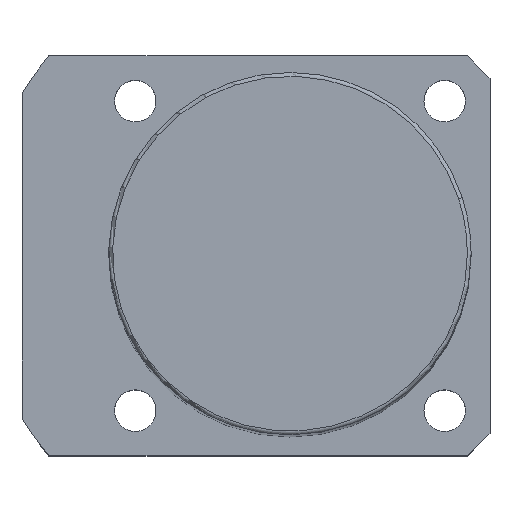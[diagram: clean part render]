
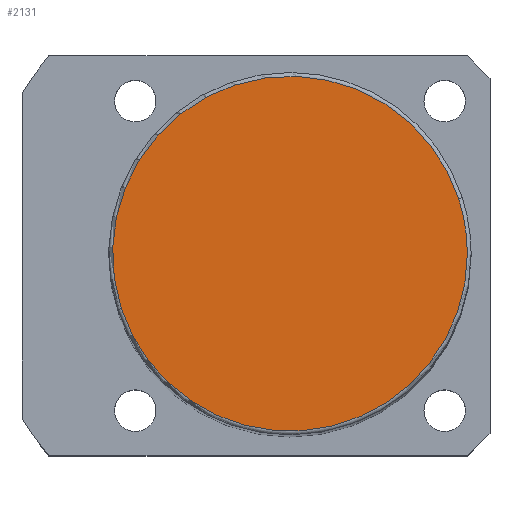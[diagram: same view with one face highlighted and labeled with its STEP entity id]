
A CAD part, top view. The second image highlights one B-rep face of the part: STEP entity #2131.
In plain terms, the highlighted planar face has unit normal (0, 0, 1).
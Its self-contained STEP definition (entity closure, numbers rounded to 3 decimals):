
#2064=CARTESIAN_POINT('',(22.35,7.262,179.0));
#2065=VERTEX_POINT('',#2064);
#2083=CARTESIAN_POINT('',(-22.35,-7.262,179.0));
#2084=VERTEX_POINT('',#2083);
#2092=CARTESIAN_POINT('',(0.0,0.0,179.0));
#2093=DIRECTION('',(0.0,0.0,1.0));
#2094=DIRECTION('',(1.0,0.0,0.0));
#2095=AXIS2_PLACEMENT_3D('',#2092,#2093,#2094);
#2096=CIRCLE('',#2095,23.5);
#2097=EDGE_CURVE('no 2123',#2065,#2084,#2096,.T.);
#2107=CARTESIAN_POINT('',(23.5,0.0,179.0));
#2108=VERTEX_POINT('',#2107);
#2109=CARTESIAN_POINT('',(0.0,0.0,179.0));
#2110=DIRECTION('',(0.0,0.0,1.0));
#2111=DIRECTION('',(1.0,0.0,0.0));
#2112=AXIS2_PLACEMENT_3D('',#2109,#2110,#2111);
#2113=CIRCLE('',#2112,23.5);
#2114=EDGE_CURVE('no 2132',#2108,#2065,#2113,.T.);
#2115=ORIENTED_EDGE('',*,*,#2114,.T.);
#2116=ORIENTED_EDGE('',*,*,#2097,.T.);
#2117=CARTESIAN_POINT('',(0.0,0.0,179.0));
#2118=DIRECTION('',(0.0,0.0,1.0));
#2119=DIRECTION('',(1.0,0.0,0.0));
#2120=AXIS2_PLACEMENT_3D('',#2117,#2118,#2119);
#2121=CIRCLE('',#2120,23.5);
#2122=EDGE_CURVE('no 2138',#2084,#2108,#2121,.T.);
#2123=ORIENTED_EDGE('',*,*,#2122,.T.);
#2124=EDGE_LOOP('',(#2115,#2116,#2123));
#2125=FACE_OUTER_BOUND('',#2124,.T.);
#2126=CARTESIAN_POINT('',(0.0,0.0,179.0));
#2127=DIRECTION('',(0.0,0.0,1.0));
#2128=DIRECTION('',(1.0,0.0,0.0));
#2129=AXIS2_PLACEMENT_3D('',#2126,#2127,#2128);
#2130=PLANE('',#2129);
#2131=ADVANCED_FACE('no 2125',(#2125),#2130,.T.);
